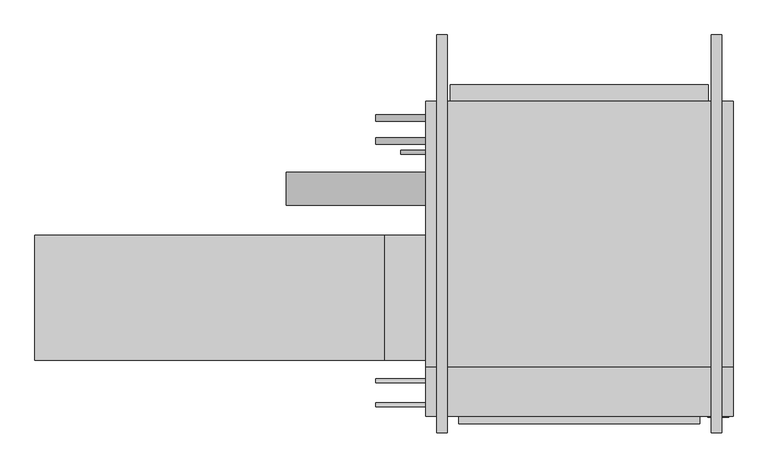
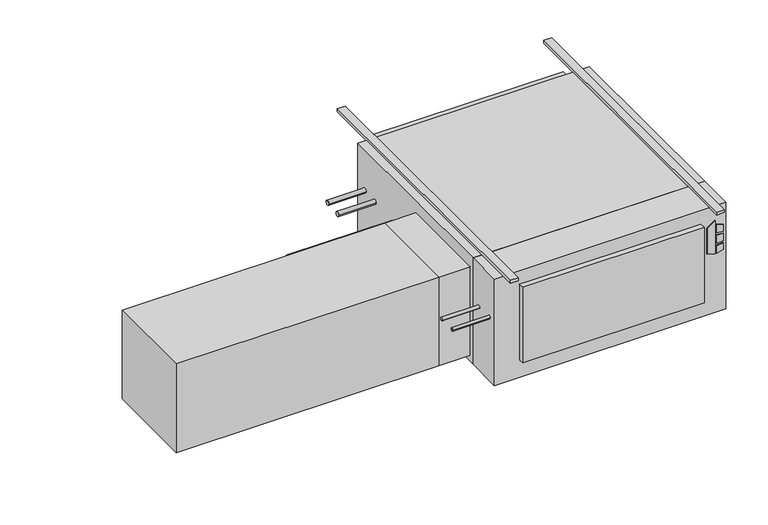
"""IFC4 building model written with IfcOpenShell, lengths in millimetres: proxy geometry."""

from ifc_helpers import new_model, si_unit, point, frame, frame_2d, origin, origin_with_axes, place, context, project, spatial, polyline, circle_curve, trimmed, segment, composite_curve, outline, extrude, source, transform, mapped, element, save


def mechanical_equipment_292f4eca(model_context):
    return source(origin(), model_context, "Body", "SweptSolid", [
        extrude(outline(polyline([(-193.2519297, 544.5868862), (-203.2, 576.7602728), (-61.0290756, 576.7602728), (-84.0510817, 544.5868862), (-193.2519297, 544.5868862)])), frame((0.0, -797.052, 0.0), z_axis=(0.0, 1.0, 0.0), x_axis=(0.0, 0.0, 1.0)), (0.0, 0.0, 1.0), 3.175),
        extrude(outline(polyline([(-114.2526443, 583.5186058), (-117.4550368, 609.6), (-88.2261958, 609.6), (-80.1617807, 583.5186058), (-114.2526443, 583.5186058)])), frame((0.0, -797.052, 0.0), z_axis=(0.0, 1.0, 0.0), x_axis=(0.0, 0.0, 1.0)), (0.0, 0.0, 1.0), 3.175),
        extrude(outline(polyline([(-166.1161712, 609.6), (-169.7816721, 583.5186058), (-203.2, 583.5186058), (-194.5657628, 609.6), (-166.1161712, 609.6)])), frame((0.0, -797.052, 0.0), z_axis=(0.0, 1.0, 0.0), x_axis=(0.0, 0.0, 1.0)), (0.0, 0.0, 1.0), 3.175),
        extrude(outline(polyline([(-126.8010097, 609.6), (-124.5191834, 583.5186058), (-160.4567319, 583.5186058), (-157.7154669, 609.6), (-126.8010097, 609.6)])), frame((0.0, -797.052, 0.0), z_axis=(0.0, 1.0, 0.0), x_axis=(0.0, 0.0, 1.0)), (0.0, 0.0, 1.0), 3.175),
        extrude(outline(polyline([(622.3, -793.877), (-317.5, -793.877), (-317.5, -644.525), (622.3, -644.525), (622.3, -793.877)])), frame((0.0, 0.0, -457.2), z_axis=(0.0, 0.0, 1.0), x_axis=(1.0, 0.0, 0.0)), (0.0, 0.0, 1.0), 457.2),
        extrude(outline(polyline([(520.7, -816.229), (-215.9, -816.229), (-215.9, -793.877), (520.7, -793.877), (520.7, -816.229)])), frame((0.0, 0.0, -381.0), z_axis=(0.0, 0.0, 1.0), x_axis=(1.0, 0.0, 0.0)), (0.0, 0.0, 1.0), 323.85),
        extrude(outline(polyline([(-1511.3, -622.3), (-1511.3, -241.3), (-444.5, -241.3), (-444.5, -622.3), (-1511.3, -622.3)])), frame((0.0, 0.0, -431.8), z_axis=(0.0, 0.0, 1.0), x_axis=(1.0, 0.0, 0.0)), (0.0, 0.0, 1.0), 381.0),
        extrude(outline(polyline([(-317.5, -241.3), (-317.5, -622.3), (-444.5, -622.3), (-444.5, -241.3), (-317.5, -241.3)])), frame((0.0, 0.0, -431.8), z_axis=(0.0, 0.0, 1.0), x_axis=(1.0, 0.0, 0.0)), (0.0, 0.0, 1.0), 381.0),
        extrude(outline(composite_curve([segment(trimmed(circle_curve(frame_2d((-758.825, -184.15)), 6.35), [point((-765.175, -184.15))], [point((-752.475, -184.15))], False, "CARTESIAN"), True, "CONTINUOUS"), segment(trimmed(circle_curve(frame_2d((-758.825, -184.15)), 6.35), [point((-752.475, -184.15))], [point((-765.175, -184.15))], False, "CARTESIAN"), True, "CONTINUOUS")], self_intersect=False)), frame((-469.9, 0.0, 0.0), z_axis=(1.0, 0.0, 0.0), x_axis=(0.0, 1.0, 0.0)), (0.0, 0.0, 1.0), 152.4),
        extrude(outline(composite_curve([segment(trimmed(circle_curve(frame_2d((-685.8, -184.15)), 6.35), [point((-692.15, -184.15))], [point((-679.45, -184.15))], False, "CARTESIAN"), True, "CONTINUOUS"), segment(trimmed(circle_curve(frame_2d((-685.8, -184.15)), 6.35), [point((-679.45, -184.15))], [point((-692.15, -184.15))], False, "CARTESIAN"), True, "CONTINUOUS")], self_intersect=False)), frame((-469.9, 0.0, 0.0), z_axis=(1.0, 0.0, 0.0), x_axis=(0.0, 1.0, 0.0)), (0.0, 0.0, 1.0), 152.4),
        extrude(outline(composite_curve([segment(trimmed(circle_curve(frame_2d((-98.4896516, -228.6360165)), 50.8), [point((-149.2896516, -228.6360165))], [point((-47.6896516, -228.6360165))], False, "CARTESIAN"), True, "CONTINUOUS"), segment(trimmed(circle_curve(frame_2d((-98.4896516, -228.6360165)), 50.8), [point((-47.6896516, -228.6360165))], [point((-149.2896516, -228.6360165))], False, "CARTESIAN"), True, "CONTINUOUS")], self_intersect=False)), frame((-742.95, 0.0, 0.0), z_axis=(1.0, 0.0, 0.0), x_axis=(0.0, 1.0, 0.0)), (0.0, 0.0, 1.0), 425.45),
        extrude(outline(composite_curve([segment(trimmed(circle_curve(frame_2d((47.625, -177.8)), 9.525), [point((38.1, -177.8))], [point((57.15, -177.8))], False, "CARTESIAN"), True, "CONTINUOUS"), segment(trimmed(circle_curve(frame_2d((47.625, -177.8)), 9.525), [point((57.15, -177.8))], [point((38.1, -177.8))], False, "CARTESIAN"), True, "CONTINUOUS")], self_intersect=False)), frame((-469.9, 0.0, 0.0), z_axis=(1.0, 0.0, 0.0), x_axis=(0.0, 1.0, 0.0)), (0.0, 0.0, 1.0), 152.4),
        extrude(outline(composite_curve([segment(trimmed(circle_curve(frame_2d((117.475, -171.45)), 9.525), [point((107.95, -171.45))], [point((127.0, -171.45))], False, "CARTESIAN"), True, "CONTINUOUS"), segment(trimmed(circle_curve(frame_2d((117.475, -171.45)), 9.525), [point((127.0, -171.45))], [point((107.95, -171.45))], False, "CARTESIAN"), True, "CONTINUOUS")], self_intersect=False)), frame((-469.9, 0.0, 0.0), z_axis=(1.0, 0.0, 0.0), x_axis=(0.0, 1.0, 0.0)), (0.0, 0.0, 1.0), 152.4),
        extrude(outline(composite_curve([segment(trimmed(circle_curve(frame_2d((12.7, -409.575)), 6.35), [point((6.35, -409.575))], [point((19.05, -409.575))], False, "CARTESIAN"), True, "CONTINUOUS"), segment(trimmed(circle_curve(frame_2d((12.7, -409.575)), 6.35), [point((19.05, -409.575))], [point((6.35, -409.575))], False, "CARTESIAN"), True, "CONTINUOUS")], self_intersect=False)), frame((-393.7, 0.0, 0.0), z_axis=(1.0, 0.0, 0.0), x_axis=(0.0, 1.0, 0.0)), (0.0, 0.0, 1.0), 76.2),
        extrude(outline(polyline([(622.3, 168.275), (622.3, -644.525), (-317.5, -644.525), (-317.5, 168.275), (622.3, 168.275)])), frame((0.0, 0.0, -457.2), z_axis=(0.0, 0.0, 1.0), x_axis=(1.0, 0.0, 0.0)), (0.0, 0.0, 1.0), 457.2),
        extrude(outline(polyline([(-241.3, 219.075), (546.1, 219.075), (546.1, 168.275), (-241.3, 168.275), (-241.3, 219.075)])), frame((0.0, 0.0, -381.0), z_axis=(0.0, 0.0, 1.0), x_axis=(1.0, 0.0, 0.0)), (0.0, 0.0, 1.0), 355.6),
        extrude(outline(polyline([(-250.825, 371.475), (-250.825, -844.677), (-282.575, -844.677), (-282.575, 371.475), (-250.825, 371.475)])), origin_with_axes(), (0.0, 0.0, 1.0), 12.7),
        extrude(outline(polyline([(587.375, 371.475), (587.375, -844.677), (555.625, -844.677), (555.625, 371.475), (587.375, 371.475)])), origin_with_axes(), (0.0, 0.0, 1.0), 12.7),
    ])


if __name__ == "__main__":
    model = new_model("IFC4")
    model_context = context("Model", 3, world=origin())
    ifc_project = project(units=[si_unit("LENGTHUNIT", "METRE", prefix="MILLI")], contexts=[model_context])
    site = spatial("IfcSite", under=ifc_project)
    building = spatial("IfcBuilding", under=site)
    placement = place(None, origin())
    mechanical_equipment_shape = mechanical_equipment_292f4eca(model_context)
    element("IfcBuildingElementProxy", 1, Name="High_Capacity_Horizontal_Cabinet_Fan_Coil_Unit_-_HTY_-_IEC_-_4-Pipe_LH Side_2022 : Size 12 - 115v/60Hz/1Ph - 4/1 Coil - 4\" AirIn", ObjectType="High_Capacity_Horizontal_Cabinet_Fan_Coil_Unit_-_HTY_-_IEC_-_4-Pipe_LH Side_2022 : Size 12 - 115v/60Hz/1Ph - 4/1 Coil - 4\" AirIn", at=placement, inside=building, context=model_context, shape_type="MappedRepresentation", body=[
        mapped(mechanical_equipment_shape, transform((0.0, 0.0, 0.0), x_axis=(1.0, 0.0, 0.0), y_axis=(0.0, 1.0, 0.0), z_axis=(0.0, 0.0, 1.0))),
    ])
    save(model, "model.ifc")
